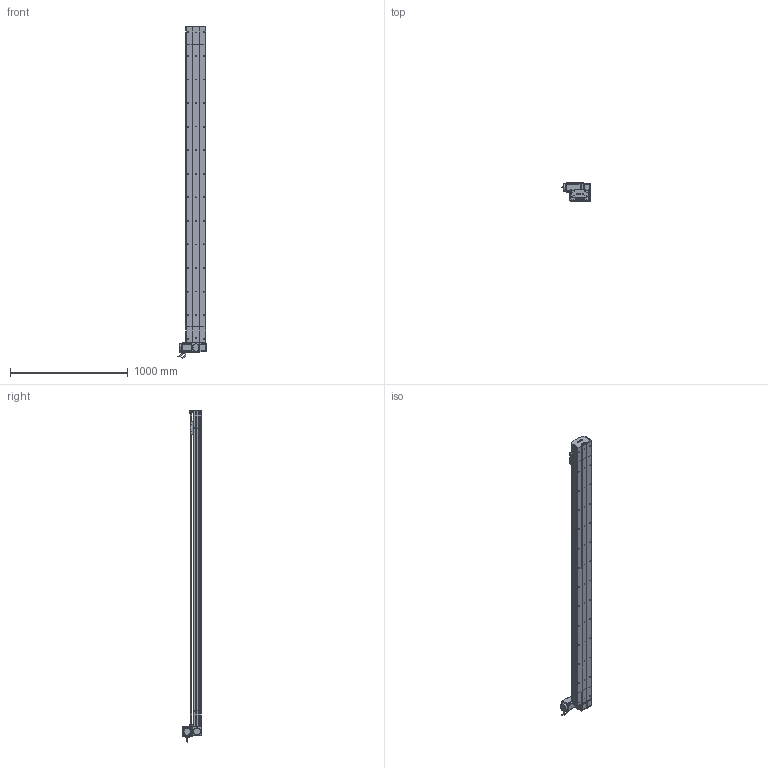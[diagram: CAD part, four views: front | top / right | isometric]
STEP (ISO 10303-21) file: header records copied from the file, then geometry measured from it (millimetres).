
FILE_DESCRIPTION (( 'STEP AP214' ), '1' );
FILE_NAME ('D17 TBN LT S2400.STEP', '2010-06-30T11:46:56', ( 'Christophe Gaillard' ), ( 'SGA' ), 'SwSTEP 2.0', 'SolidWorks 2010', '' );
FILE_SCHEMA (( 'AUTOMOTIVE_DESIGN' ));
Length unit declared in the file: millimetre
Products named in the file (40): vis M5 L5_Default; cache arbre D17_Default; couroie head D17_Default; poulie head_Default; cache D17_Default; course 2400 D17B_Default; Couroie+ rail D17 Course 2400 ; Arbre+rail head D17B; plaque de  bout head D17B LT_Default; couvercle D17B head_Default; corp D17B 2400_Default; corpl head D17 _Default; Head LT D17B_Default; couvercle D17B course L2400_Default; guide D17; Conecteur2_Default; codeur 90BLDC125-640; corps 90BLDC125A-640; avant 90BLDC125A-640; Plaque racord D17_Default; vis M5 L70_Default; Conecteur_Default; Tail D17B_Default; Vis M5 L16-2_Default; vis M5 L16_Default; Rail D17B; tete d''axe poulie D17B; corpl tail D17B_Default; Couroie tail D17B_Default; poulie tail_Default; plaque de  bout tail D17B_Default; vis M5 L12_Default; vis M5 L8 90°_Default; couvercle D17B_Default; Chariot D17 TBN; chariot D17 TBN; vis M5 L25_Default; D17 TBN LT S2400; Moteur motionking 90BLDC125A-640; Renvoi LT_Default
Assembly tree (66 placements, depth 4):
  D17 TBN LT S2400
    Head LT D17B_Default
      Vis M5 L16-2_Default  x4
      vis M5 L5_Default  x4
      cache D17_Default  x2
      vis M5 L16_Default  x2
      vis M5 L25_Default  x2
      vis M5 L12_Default  x8
      plaque de  bout head D17B LT_Default
      couvercle D17B head_Default
      Plaque racord D17_Default
      couroie head D17_Default
      vis M5 L70_Default  x4
      poulie head_Default
      cache arbre D17_Default
      Renvoi LT_Default
      corpl head D17 _Default
      Arbre+rail head D17B
      Moteur motionking 90BLDC125A-640
        codeur 90BLDC125-640
        corps 90BLDC125A-640
        avant 90BLDC125A-640
        Conecteur_Default
        Conecteur2_Default
    course 2400 D17B_Default
      corp D17B 2400_Default
      couvercle D17B course L2400_Default
      Couroie+ rail D17 Course 2400 
    chariot D17 TBN
      guide D17  x2
      Chariot D17 TBN
    Tail D17B_Default
      vis M5 L25_Default  x2
      vis M5 L12_Default  x4
      corpl tail D17B_Default
      vis M5 L8 90°_Default  x2
      tete d''axe poulie D17B
      Rail D17B
      poulie tail_Default
      Couroie tail D17B_Default
      couvercle D17B_Default
      plaque de  bout tail D17B_Default
Bounding box: 245.2 x 166.15 x 2817.95 mm (x, y, z)
Volume: 16214706.8 mm3; surface area: 4705840.5 mm2
Topology: 89 solids, 89 shells, 2615 faces, 6693 edges, 4314 vertices
Faces by surface type: plane 1533, cylinder 785, bspline 136, cone 80, torus 77, sphere 4
Entity records: 84899 total; most frequent: CARTESIAN_POINT 25251, ORIENTED_EDGE 10558, DIRECTION 9972, EDGE_CURVE 5279, LINE 3474, VECTOR 3474, VERTEX_POINT 3458, AXIS2_PLACEMENT_3D 3249
